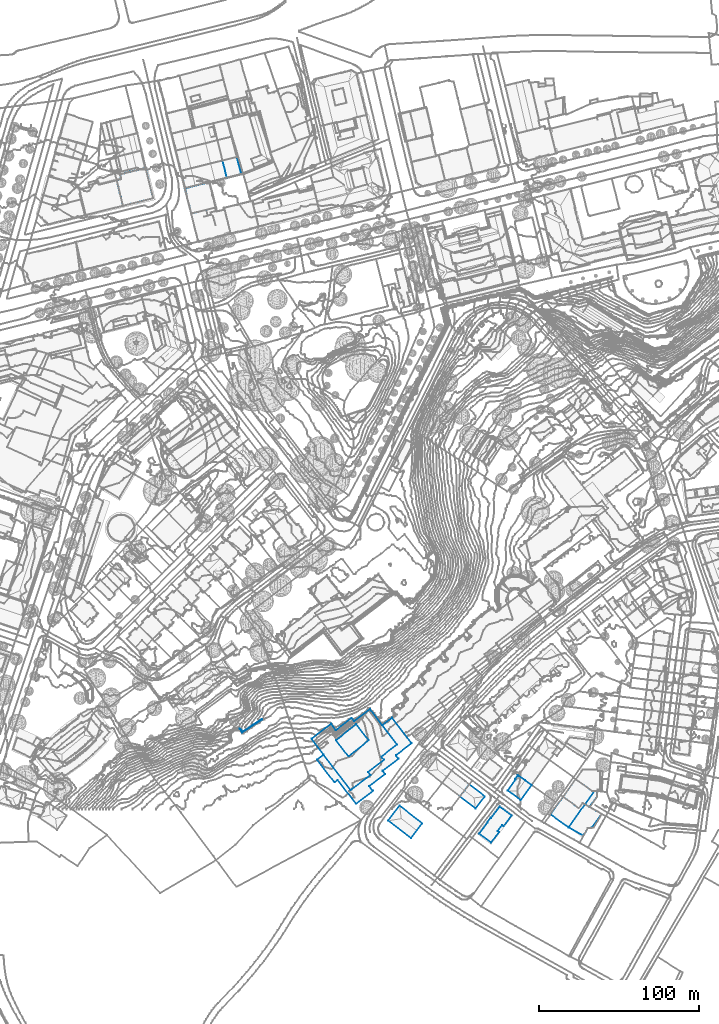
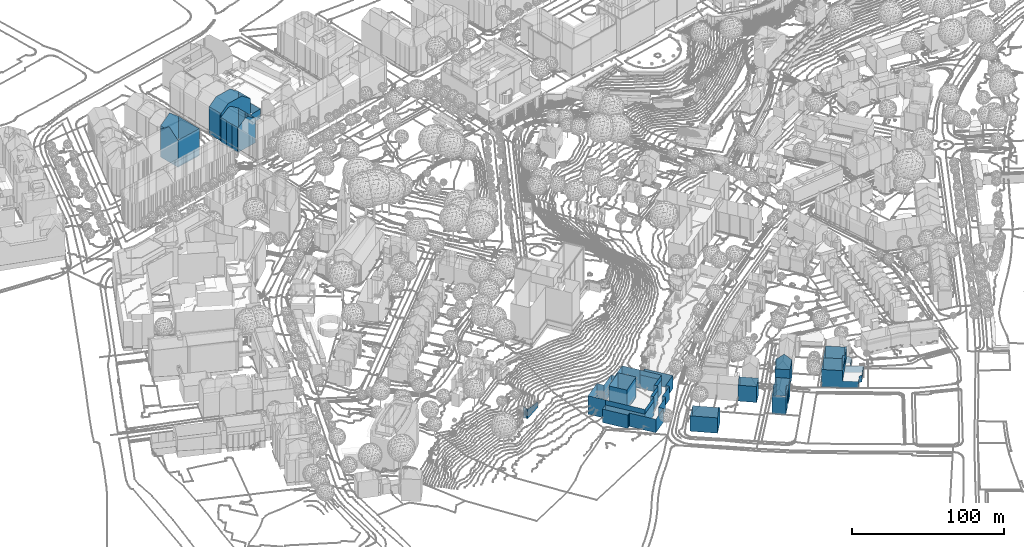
# Not in any storey, part 34 of 477: 14 walls.
"""IFC4 building model written with IfcOpenShell, lengths in metres."""

import ifcopenshell
import ifcopenshell.guid

model = None  # the IFC model being written
_history = None  # IfcOwnerHistory: only IFC2X3 demands one
_inside = {}  # id of a spatial element -> (the spatial element, [elements in it])
_under = {}  # id of a project, library or spatial element -> (it, [spatial elements below it])
_declared = {}  # id of a project -> (the project, [libraries it declares])
_typed = {}  # id of a type object -> (the type object, [elements of that type])
_made_of = {}  # id of a material, layer set ... -> (it, [elements and type objects made of it])


def new_model(schema):
    """Start an empty IFC model of exactly this schema.

    Asked for "IFC4X3", IfcOpenShell would pick the latest addendum, in which some entities
    have other attributes; the version numbers below select the first issue.
    IFC2X3 requires an IfcOwnerHistory on every rooted entity: one is made here for all.
    """
    global model, _history
    if schema == "IFC4X3":
        model = ifcopenshell.file(schema_version=(4, 3, 0, 0))
    else:
        model = ifcopenshell.file(schema=schema)
    _inside.clear()
    _under.clear()
    _declared.clear()
    _typed.clear()
    _made_of.clear()
    _history = None
    if model.schema == "IFC2X3":
        org = make("IfcOrganization", Name="unknown")
        user = make(
            "IfcPersonAndOrganization",
            ThePerson=make("IfcPerson", FamilyName="unknown"),
            TheOrganization=org,
        )
        app = make(
            "IfcApplication",
            ApplicationDeveloper=org,
            Version="unknown",
            ApplicationFullName="unknown",
            ApplicationIdentifier="unknown",
        )
        _history = make(
            "IfcOwnerHistory",
            OwningUser=user,
            OwningApplication=app,
            ChangeAction="ADDED",
            CreationDate=0,
        )
    return model


def make(cls, **values):
    """One entity of the class cls with the attributes given. An attribute that is None is left unset."""
    return model.create_entity(
        cls, **{name: value for name, value in values.items() if value is not None}
    )


def rooted(cls, **values):
    """An entity with a GlobalId (a new one), such as an element, a storey or a relation."""
    return make(cls, GlobalId=ifcopenshell.guid.new(), OwnerHistory=_history, **values)


def si_unit(unit_type, name, prefix=None):
    """IfcSIUnit, for example si_unit("LENGTHUNIT", "METRE", prefix="MILLI")."""
    return make("IfcSIUnit", UnitType=unit_type, Prefix=prefix, Name=name)


def assignment(units):
    """IfcUnitAssignment: the units of a project."""
    return None if units is None else make("IfcUnitAssignment", Units=units)


def point(xyz):
    """IfcCartesianPoint."""
    return None if xyz is None else make("IfcCartesianPoint", Coordinates=xyz)


def direction(xyz):
    """IfcDirection."""
    return None if xyz is None else make("IfcDirection", DirectionRatios=xyz)


def frame(location, z_axis=None, x_axis=None):
    """IfcAxis2Placement3D, a coordinate frame: its origin and axes. An axis left out is left unset."""
    return make(
        "IfcAxis2Placement3D",
        Location=point(location),
        Axis=direction(z_axis),
        RefDirection=direction(x_axis),
    )


def origin_with_axes():
    """The frame at (0, 0, 0) with the z axis (0, 0, 1) and the x axis (1, 0, 0) written out."""
    return frame((0.0, 0.0, 0.0), z_axis=(0.0, 0.0, 1.0), x_axis=(1.0, 0.0, 0.0))


def place(relative_to, where):
    """IfcLocalPlacement: puts the frame where relative to a parent placement (None: the world)."""
    return make(
        "IfcLocalPlacement", PlacementRelTo=relative_to, RelativePlacement=where
    )


def context(
    kind, dimensions, precision=None, world=None, true_north=None, identifier=None
):
    """IfcGeometricRepresentationContext, for example the 3D "Model" context."""
    return make(
        "IfcGeometricRepresentationContext",
        ContextIdentifier=identifier,
        ContextType=kind,
        CoordinateSpaceDimension=dimensions,
        Precision=precision,
        WorldCoordinateSystem=world,
        TrueNorth=true_north,
    )


def subcontext(parent, identifier, kind, view, scale=None):
    """IfcGeometricRepresentationSubContext, for example "Body" below "Model"."""
    return make(
        "IfcGeometricRepresentationSubContext",
        ContextIdentifier=identifier,
        ContextType=kind,
        ParentContext=parent,
        TargetScale=scale,
        TargetView=view,
    )


def project(units=None, contexts=None):
    """IfcProject with its units and contexts."""
    return rooted(
        "IfcProject",
        Name="project",
        RepresentationContexts=contexts,
        UnitsInContext=assignment(units),
    )


def spatial(cls, under=None, at=None, **own):
    """A site, building, storey or space (cls), placed at a placement, below another one or the project."""
    s = rooted(cls, ObjectPlacement=at, **own)
    if under is not None:
        _under.setdefault(under.id(), (under, []))[1].append(s)
    return s


def point_list(points):
    """IfcCartesianPointList2D or 3D."""
    cls = (
        "IfcCartesianPointList2D" if len(points[0]) == 2 else "IfcCartesianPointList3D"
    )
    return make(cls, CoordList=points)


def polygons(points, faces, closed=None, point_numbers=None):
    """IfcPolygonalFaceSet: a face is its outer loop, then its inner loops; points numbered from 1."""
    made = []
    for loops in faces:
        if len(loops) == 1:
            made.append(make("IfcIndexedPolygonalFace", CoordIndex=loops[0]))
        else:
            made.append(
                make(
                    "IfcIndexedPolygonalFaceWithVoids",
                    CoordIndex=loops[0],
                    InnerCoordIndices=loops[1:],
                )
            )
    return make(
        "IfcPolygonalFaceSet",
        Coordinates=point_list(points),
        Closed=closed,
        Faces=made,
        PnIndex=point_numbers,
    )


def shape(context_of_items, identifier, shape_type, items):
    """IfcShapeRepresentation: the items that make up one representation, for example the "Body"."""
    return make(
        "IfcShapeRepresentation",
        ContextOfItems=context_of_items,
        RepresentationIdentifier=identifier,
        RepresentationType=shape_type,
        Items=items,
    )


def made_of(thing, what):
    """Note that an element or type object is made of a material, layer set ...; save() writes the relation."""
    if what is not None:
        _made_of.setdefault(what.id(), (what, []))[1].append(thing)
    return thing


def element(
    cls,
    number,
    at=None,
    inside=None,
    cuts=None,
    type_object=None,
    material=None,
    context=None,
    identifier="Body",
    shape_type=None,
    held_by="IfcProductDefinitionShape",
    body=None,
    shapes=None,
    **own,
):
    """One element of the class cls, such as IfcWall. Its Tag is "e" and its number.

    at: its placement. inside: the storey or other place that contains it. cuts: it is an
    opening in that element (IfcRelVoidsElement). A single representation is given by context,
    identifier, shape_type and body (its items); several are given by shapes. held_by: the class
    of the entity that holds the representations. save() writes the other relations.
    """
    e = rooted(cls, Tag="e%d" % number, ObjectPlacement=at, **own)
    if body is not None:
        shapes = [shape(context, identifier, shape_type, body)]
    if shapes is not None:
        e.Representation = make(held_by, Representations=shapes)
    if inside is not None:
        _inside.setdefault(inside.id(), (inside, []))[1].append(e)
    if cuts is not None:
        rooted(
            "IfcRelVoidsElement", RelatingBuildingElement=cuts, RelatedOpeningElement=e
        )
    if type_object is not None:
        _typed.setdefault(type_object.id(), (type_object, []))[1].append(e)
    return made_of(e, material)


def aggregate(whole, parts):
    """IfcRelAggregates: a whole, such as a stair, and the parts it consists of."""
    return rooted("IfcRelAggregates", RelatingObject=whole, RelatedObjects=parts)


def save(model, path):
    """Write the relations noted so far, then the file.

    IfcRelAggregates (storeys below a building ...), IfcRelContainedInSpatialStructure (elements
    in a storey), IfcRelDefinesByType, IfcRelAssociatesMaterial and IfcRelDeclares: one each for
    every whole, place, type object, material and project.
    """
    for whole, parts in _under.values():
        aggregate(whole, parts)
    for where, things in _inside.values():
        rooted(
            "IfcRelContainedInSpatialStructure",
            RelatedElements=things,
            RelatingStructure=where,
        )
    for kind, things in _typed.values():
        rooted("IfcRelDefinesByType", RelatedObjects=things, RelatingType=kind)
    for what, things in _made_of.values():
        rooted("IfcRelAssociatesMaterial", RelatedObjects=things, RelatingMaterial=what)
    for by, libraries in _declared.values():
        rooted("IfcRelDeclares", RelatingContext=by, RelatedDefinitions=libraries)
    model.write(path)


model = new_model("IFC4")

# Units and contexts
model_context = context("Model", 3, precision=1e-05, world=origin_with_axes())
body_context = subcontext(model_context, "Body", "Model", "MODEL_VIEW")
ifc_project = project(units=[si_unit("AREAUNIT", "SQUARE_METRE"), si_unit("LENGTHUNIT", "METRE")], contexts=[model_context])

# Sites, building
site_1_placement = place(None, origin_with_axes())
site_1 = spatial("IfcSite", under=ifc_project, at=site_1_placement, Name="Topoexport Site")
site_2_placement = place(site_1_placement, origin_with_axes())
site_2 = spatial("IfcSite", under=site_1, at=site_2_placement, Name="TPX_BUILDINGS")
building_1_placement = place(site_2_placement, frame((351.9437320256, 10.5164160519, 499.6315), z_axis=(0.0, 0.0, 1.0), x_axis=(1.0, 0.0, 0.0)))
building_1 = spatial("IfcBuilding", under=site_2, at=building_1_placement, Name="Building 4", CompositionType="ELEMENT")

# Wall
wall_1_placement = place(None, frame((351.9437320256, 10.5164160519, 499.6315), z_axis=(0.0, 0.0, 1.0), x_axis=(1.0, 0.0, 0.0)))
element("IfcWall", 1, at=wall_1_placement, inside=building_1, Name="Wall 0", context=body_context, shape_type="Tessellation", body=[
    polygons([(6.9640000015, 9.188500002, 0.0), (10.7760000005, 6.4600000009, 0.0), (6.9640000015, 9.188500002, 14.2176), (0.0, 0.0, 0.0), (5.0899999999, 7.0692999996, 13.9787), (0.0, 0.0, 13.9787), (4.9010000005, 7.5439999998, 0.0), (4.7410000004, 7.3213, 13.9787), (4.7410000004, 7.3213, 0.0), (5.0899999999, 7.0692999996, 0.0), (6.444000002, 9.5606000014, 0.0), (6.444000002, 9.5606000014, 14.2186), (6.3780000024, 9.6064999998, 0.0), (4.9010000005, 7.5439999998, 14.1566), (6.3780000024, 9.6064999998, 14.1506), (14.9299999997, 3.4853999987, 0.0), (8.1790000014, -5.8896000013, 13.9786), (14.9299999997, 3.4853999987, 13.9786), (10.7760000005, 6.4600000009, 18.1722), (8.1790000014, -5.8896000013, 0.0)], [[[3, 2, 1]], [[6, 5, 4]], [[9, 8, 7]], [[5, 9, 10]], [[9, 5, 8]], [[12, 3, 11]], [[14, 13, 7]], [[13, 15, 12]], [[11, 13, 12]], [[18, 17, 16]], [[19, 18, 2]], [[17, 6, 20]], [[19, 2, 3]], [[5, 10, 4]], [[14, 7, 8]], [[3, 1, 11]], [[14, 15, 13]], [[17, 20, 16]], [[18, 16, 2]], [[6, 4, 20]]]),
])

# Building
building_2_placement = place(site_2_placement, frame((277.0167320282, -8.246283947, 501.3544), z_axis=(0.0, 0.0, 1.0), x_axis=(1.0, 0.0, 0.0)))
building_2 = spatial("IfcBuilding", under=site_2, at=building_2_placement, Name="Building 11", CompositionType="ELEMENT")

# Wall
wall_2_placement = place(None, frame((277.0167320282, -8.246283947, 501.3544), z_axis=(0.0, 0.0, 1.0), x_axis=(1.0, 0.0, 0.0)))
element("IfcWall", 2, at=wall_2_placement, inside=building_2, Name="Wall 0", context=body_context, shape_type="Tessellation", body=[
    polygons([(0.0, 0.0, 0.0), (7.1789999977, 9.2978999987, 12.3158), (0.0, 0.0, 12.3158), (7.1789999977, 9.2978999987, 0.0), (21.432, -1.7080000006, 12.3158), (14.3549999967, -11.0839999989, 0.0), (14.3549999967, -11.0839999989, 12.3158), (21.432, -1.7080000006, 0.0), (18.0519999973, -6.1854999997, 16.7393)], [[[3, 2, 1]], [[2, 5, 4]], [[7, 3, 6]], [[8, 5, 7]], [[8, 7, 6]], [[7, 5, 9]], [[2, 4, 1]], [[5, 8, 4]], [[3, 1, 6]]]),
])

# Building
building_3_placement = place(site_2_placement, frame((334.0767320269, -16.4571839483, 500.2114), z_axis=(0.0, 0.0, 1.0), x_axis=(1.0, 0.0, 0.0)))
building_3 = spatial("IfcBuilding", under=site_2, at=building_3_placement, Name="Building 12", CompositionType="ELEMENT")

# Wall
wall_3_placement = place(None, frame((334.0767320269, -16.4571839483, 500.2114), z_axis=(0.0, 0.0, 1.0), x_axis=(1.0, 0.0, 0.0)))
element("IfcWall", 3, at=wall_3_placement, inside=building_3, Name="Wall 0", context=body_context, shape_type="Tessellation", body=[
    polygons([(7.5119999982, 9.8857000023, 14.4916), (7.8929999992, 9.5967000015, 14.8056), (7.5119999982, 9.8857000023, 14.8056), (5.0780000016, 6.682599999, 14.4896), (5.0780000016, 6.682599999, 14.8056), (5.4620000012, 6.3916000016, 14.8056), (20.2369999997, 11.2978000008, 8.8552), (15.2030000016, 4.6728000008, 0.0), (20.2369999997, 11.2978000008, 14.1707), (20.2369999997, 11.2978000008, 0.0), (15.2030000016, 4.6728000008, 14.1747), (8.6519999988, -3.9492000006, 14.1796), (12.4439999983, 1.0428999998, 14.1766), (12.4439999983, 1.0428999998, 0.0), (7.3869999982, -5.6142999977, 8.8632), (7.3869999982, -5.6142999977, 3.5447), (7.3869999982, -5.6142999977, 0.0), (11.4890000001, 1.7675999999, 14.9356), (11.4890000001, 1.7675999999, 0.0), (14.2479999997, 5.3993999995, 0.0), (14.2479999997, 5.3993999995, 14.9336), (7.4239999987, 9.7705000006, 0.0), (7.1849999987, 9.9530999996, 14.9236), (7.1849999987, 9.9530999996, 0.0), (7.4239999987, 9.7705000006, 14.9246), (5.175999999, 7.307599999, 15.1846), (5.175999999, 7.307599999, 0.0), (6.1669999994, 8.6123000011, 16.2965), (19.8940000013, 11.557599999, 14.4426), (12.8440000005, 16.9043000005, 14.4436), (12.8440000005, 16.9043000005, 0.0), (0.0, 0.0, 0.0), (7.1919999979, -5.4657999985, 14.3356), (7.3869999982, -5.6142999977, 14.1806), (0.0, 0.0, 14.3406), (5.4149999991, 7.1259000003, 0.0), (0.1359999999, 0.1787, 14.4856), (5.4149999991, 7.126000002, 15.1836), (12.7949999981, 16.8388000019, 14.4966), (12.7949999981, 16.8388000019, 0.0)], [[[3, 2, 1]], [[6, 5, 4]], [[9, 8, 7]], [[7, 8, 10]], [[9, 11, 8]], [[14, 13, 12]], [[16, 12, 15]], [[17, 14, 16]], [[16, 14, 12]], [[18, 13, 14]], [[19, 18, 14]], [[18, 19, 20]], [[18, 20, 21]], [[8, 21, 20]], [[24, 23, 22]], [[25, 22, 23]], [[24, 27, 26]], [[26, 28, 23]], [[26, 23, 24]], [[7, 30, 29]], [[7, 31, 30]], [[29, 9, 7]], [[7, 10, 31]], [[17, 16, 32]], [[16, 15, 32]], [[34, 33, 15]], [[35, 32, 15]], [[35, 15, 33]], [[36, 32, 35]], [[35, 37, 36]], [[4, 5, 38]], [[38, 36, 4]], [[37, 4, 36]], [[38, 26, 27]], [[27, 36, 38]], [[3, 1, 25]], [[39, 30, 1]], [[25, 1, 22]], [[31, 40, 1]], [[22, 1, 40]], [[1, 30, 31]], [[34, 15, 12]], [[11, 21, 8]]]),
])

# Building
building_4_placement = place(site_2_placement, frame((211.8297320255, 101.9383160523, 526.7541), z_axis=(0.0, 0.0, 1.0), x_axis=(1.0, 0.0, 0.0)))
building_4 = spatial("IfcBuilding", under=site_2, at=building_4_placement, Name="Building 18", CompositionType="ELEMENT")

# Walls
wall_4_placement = place(None, frame((211.8297320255, 101.9383160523, 526.7541), z_axis=(0.0, 0.0, 1.0), x_axis=(1.0, 0.0, 0.0)))
element("IfcWall", 4, at=wall_4_placement, inside=building_4, Name="Wall 3", context=body_context, shape_type="Tessellation", body=[
    polygons([(-26.0409999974, -54.9580000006, -17.0634), (-13.8379999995, -46.5898999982, -12.6568), (-26.0409999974, -54.9580000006, -9.6341), (-13.6510000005, -46.8759999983, -12.6568), (-13.6510000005, -46.8759999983, -17.0634), (-13.8379999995, -46.5898999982, -17.0634)], [[[3, 2, 1]], [[5, 4, 3]], [[3, 1, 5]], [[2, 4, 6]], [[2, 6, 1]], [[4, 5, 6]]]),
])
wall_5_placement = place(None, frame((211.8297320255, 101.9383160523, 526.7541), z_axis=(0.0, 0.0, 1.0), x_axis=(1.0, 0.0, 0.0)))
element("IfcWall", 5, at=wall_5_placement, inside=building_4, Name="Wall 4", context=body_context, shape_type="Tessellation", body=[
    polygons([(-26.0409999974, -54.9580000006, -9.6341), (-13.8379999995, -46.5898999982, -12.6568), (-13.8379999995, -46.5898999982, -17.0634), (-26.0409999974, -54.9580000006, -17.0634), (-25.9169999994, -54.4677999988, -17.0634), (-25.9169999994, -54.4677999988, -9.6341), (-26.367999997, -53.6319000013, -17.0634), (-26.367999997, -53.6319000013, -9.2021), (-26.6359999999, -53.8544999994, -17.0634), (-27.7089999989, -52.5527999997, -17.0633), (-26.6359999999, -53.8544999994, -9.2021), (-27.7089999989, -52.5527999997, -8.0502)], [[[3, 2, 1]], [[1, 4, 3]], [[6, 2, 5]], [[8, 6, 7]], [[1, 9, 4]], [[11, 10, 9]], [[12, 8, 10]], [[2, 3, 5]], [[6, 5, 7]], [[11, 9, 1]], [[12, 10, 11]], [[8, 7, 10]]]),
])

# Building
building_5_placement = place(site_2_placement, frame((386.5667320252, 6.5633160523, 499.0235), z_axis=(0.0, 0.0, 1.0), x_axis=(1.0, 0.0, 0.0)))
building_5 = spatial("IfcBuilding", under=site_2, at=building_5_placement, Name="Building 20", CompositionType="ELEMENT")

# Wall
wall_6_placement = place(None, frame((386.5667320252, 6.5633160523, 499.0235), z_axis=(0.0, 0.0, 1.0), x_axis=(1.0, 0.0, 0.0)))
element("IfcWall", 6, at=wall_6_placement, inside=building_5, Name="Wall 0", context=body_context, shape_type="Tessellation", body=[
    polygons([(16.8920000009, -6.3027999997, 0.0), (16.7939999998, -6.4395000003, 5.3905), (16.8920000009, -6.3027999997, 5.3905), (16.6450000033, -6.1513999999, 0.0), (16.6450000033, -6.1513999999, 5.3905), (21.2810000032, 0.3359000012, 0.0), (21.2810000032, 0.3359000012, 5.3905), (21.393000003, 3.6981999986, 0.0), (21.393000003, 3.6981999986, 5.3905), (15.012000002, 5.9472000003, 0.0), (7.8980000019, 11.0351000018, 13.8347), (7.8980000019, 11.0351000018, 0.0), (18.1740000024, 3.6854999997, 0.0), (18.1740000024, 3.6854999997, 13.8347), (0.0, 0.0, 0.0), (0.0, 0.0, 13.8347), (9.9030000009, -7.0859999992, 13.8347), (9.9030000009, -7.0859999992, 5.3905), (7.1210000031, -5.0947000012, 0.0), (9.9030000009, -7.0859999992, 0.0), (12.2230000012, -3.8456999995, 0.0), (12.2230000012, -3.8456999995, 13.8347), (19.6400000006, 3.691399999, 5.3905), (13.6840000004, -4.6748000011, 13.8347), (19.6400000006, 3.6933000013, 13.8347), (16.7939999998, -6.4395000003, 0.0), (13.6840000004, -4.6748000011, 5.3905)], [[[3, 2, 1]], [[5, 3, 4]], [[7, 5, 6]], [[9, 7, 8]], [[12, 11, 10]], [[10, 14, 13]], [[16, 11, 15]], [[18, 17, 16]], [[20, 18, 19]], [[19, 16, 15]], [[16, 19, 18]], [[22, 18, 21]], [[18, 20, 21]], [[25, 24, 23]], [[13, 23, 8]], [[14, 23, 13]], [[9, 8, 23]], [[26, 2, 21]], [[27, 22, 21]], [[22, 27, 24]], [[27, 21, 2]], [[2, 26, 1]], [[3, 1, 4]], [[5, 4, 6]], [[7, 6, 8]], [[11, 14, 10]], [[11, 12, 15]], [[17, 18, 22]], [[24, 27, 23]], [[25, 23, 14]]]),
])

# Building
building_6_placement = place(site_2_placement, frame((378.6967320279, -4.4298839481, 499.0235), z_axis=(0.0, 0.0, 1.0), x_axis=(1.0, 0.0, 0.0)))
building_6 = spatial("IfcBuilding", under=site_2, at=building_6_placement, Name="Building 21", CompositionType="ELEMENT")

# Wall
wall_7_placement = place(None, frame((378.6967320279, -4.4298839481, 499.0235), z_axis=(0.0, 0.0, 1.0), x_axis=(1.0, 0.0, 0.0)))
element("IfcWall", 7, at=wall_7_placement, inside=building_6, Name="Wall 0", context=body_context, shape_type="Tessellation", body=[
    polygons([(17.7729999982, 3.9072000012, 0.0), (20.0929999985, 7.1475000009, 5.3905), (17.7729999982, 3.9072000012, 13.8347), (0.0, 0.0, 0.0), (7.8699999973, 10.9932000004, 13.8347), (0.0, 0.0, 13.8347), (21.5539999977, 6.3183999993, 5.3905), (11.3049999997, -8.0790999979, 13.8347), (21.5539999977, 6.3183999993, 13.8347), (20.3409999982, -13.2430999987, 0.0), (11.6140000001, -8.3007999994, 5.3905), (20.3409999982, -13.2430999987, 5.3904), (22.2249999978, -10.6083999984, 0.0), (22.2249999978, -10.6083999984, 5.3904), (23.425999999, -8.5088, 0.0), (23.425999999, -8.5088, 5.3905), (24.1999999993, -8.4648000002, 0.0), (24.1999999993, -8.4648000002, 5.3905), (25.7539999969, -8.3183000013, 0.0), (25.7539999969, -8.3183000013, 5.3904), (31.9169999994, 0.3066999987, 0.0), (31.9169999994, 0.3066999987, 5.3905), (29.0299999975, 2.0751999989, 0.0), (29.0299999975, 2.0751999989, 5.3905), (7.8699999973, 10.9932000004, 0.0), (21.5539999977, 6.3183999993, 0.0), (20.0929999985, 7.1475000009, 0.0), (11.3049999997, -8.0790999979, 0.0), (11.3049999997, -8.0790999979, 5.3905), (11.6140000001, -8.3007999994, 0.0), (7.1319999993, -5.0986000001, 0.0), (20.0929999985, 7.1475000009, 13.8347)], [[[3, 2, 1]], [[6, 5, 4]], [[9, 8, 7]], [[12, 11, 10]], [[14, 12, 13]], [[16, 14, 15]], [[18, 16, 17]], [[20, 18, 19]], [[22, 20, 21]], [[24, 22, 23]], [[5, 1, 25]], [[1, 5, 3]], [[2, 9, 7]], [[27, 2, 26]], [[24, 23, 7]], [[30, 29, 28]], [[8, 31, 29]], [[29, 31, 28]], [[6, 31, 8]], [[32, 2, 3]], [[2, 27, 1]], [[5, 25, 4]], [[8, 29, 7]], [[11, 30, 10]], [[12, 10, 13]], [[14, 13, 15]], [[16, 15, 17]], [[18, 17, 19]], [[20, 19, 21]], [[22, 21, 23]], [[32, 9, 2]], [[2, 7, 26]], [[23, 26, 7]], [[11, 29, 30]], [[4, 31, 6]]]),
])

# Building
building_7_placement = place(site_2_placement, frame((322.0067320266, 6.8035160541, 500.5714), z_axis=(0.0, 0.0, 1.0), x_axis=(1.0, 0.0, 0.0)))
building_7 = spatial("IfcBuilding", under=site_2, at=building_7_placement, Name="Building 26", CompositionType="ELEMENT")

# Wall
wall_8_placement = place(None, frame((322.0067320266, 6.8035160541, 500.5714), z_axis=(0.0, 0.0, 1.0), x_axis=(1.0, 0.0, 0.0)))
element("IfcWall", 8, at=wall_8_placement, inside=building_7, Name="Wall 0", context=body_context, shape_type="Tessellation", body=[
    polygons([(5.8610000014, 7.6503999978, 0.0), (15.6110000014, 0.1103999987, 12.7678), (5.8610000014, 7.6503999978, 12.7678), (15.6110000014, 0.1103999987, 0.0), (9.7160000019, -7.5137000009, 12.7678), (9.7160000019, -7.5137000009, 0.0), (0.0, 0.0, 12.7678), (2.9200000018, 3.811499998, 17.5223), (0.0, 0.0, 0.0), (2.9200000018, 3.811499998, 0.0)], [[[3, 2, 1]], [[2, 5, 4]], [[5, 7, 6]], [[7, 8, 3]], [[7, 3, 9]], [[10, 9, 3]], [[1, 10, 3]], [[2, 4, 1]], [[5, 6, 4]], [[7, 9, 6]]]),
])

# Building
building_8_placement = place(site_2_placement, frame((287.111732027, 46.2742160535, 500.3625), z_axis=(0.0, 0.0, 1.0), x_axis=(1.0, 0.0, 0.0)))
building_8 = spatial("IfcBuilding", under=site_2, at=building_8_placement, Name="Building 65", CompositionType="ELEMENT")

# Walls
wall_9_placement = place(None, frame((287.111732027, 46.2742160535, 500.3625), z_axis=(0.0, 0.0, 1.0), x_axis=(1.0, 0.0, 0.0)))
element("IfcWall", 9, at=wall_9_placement, inside=building_8, Name="Wall 1", context=body_context, shape_type="Tessellation", body=[
    polygons([(-42.6979999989, 2.1601999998, 0.2711), (-32.8040000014, 9.7626999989, 14.9756), (-42.6979999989, 2.1601999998, 14.9756), (-42.7219999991, 2.1405999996, 0.2711), (-42.7219999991, 2.1405999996, 14.9756), (-45.7670000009, 6.1103999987, 0.2711), (-45.7670000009, 6.1103999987, 14.9757), (-57.9750000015, -3.2422000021, 0.2711), (-57.9750000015, -3.2422000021, 14.9757), (-50.3640000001, -13.1611000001, 0.271), (-50.3640000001, -13.1611000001, 14.9756), (-50.4539999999, -13.2303999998, 0.271), (-50.4539999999, -13.2303999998, 14.9756), (-33.4110000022, -35.375, 0.271), (-33.4110000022, -35.375, 14.9756), (-21.1009999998, -25.9004000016, 0.271), (-21.1009999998, -25.9004000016, 14.9756), (-22.550999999, -24.0175999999, 0.271), (-22.550999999, -24.0175999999, 14.9756), (-12.6649999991, -16.4072000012, 0.271), (-12.6649999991, -16.4072000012, 14.9756), (-14.2050000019, -14.4053000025, 0.271), (-14.2050000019, -14.4053000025, 14.9756), (-4.3040000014, -6.7851000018, 0.271), (-4.3040000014, -6.7851000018, 14.9756), (-13.6860000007, 5.4052999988, 0.271), (-13.6860000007, 5.4052999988, 14.9756), (-13.7170000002, 5.3818999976, 0.271), (-13.7170000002, 5.3818999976, 14.9756), (-21.3920000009, 15.3955000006, 0.2711), (-21.3920000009, 15.3955000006, 14.9756), (-31.2890000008, 7.7841999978, 0.2711), (-31.2890000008, 7.7841999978, 14.9756), (-32.8040000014, 9.7626999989, 0.2711)], [[[3, 2, 1]], [[5, 3, 4]], [[7, 5, 6]], [[9, 7, 8]], [[11, 9, 10]], [[13, 11, 12]], [[15, 13, 14]], [[17, 15, 16]], [[19, 17, 18]], [[21, 19, 20]], [[23, 21, 22]], [[25, 23, 24]], [[27, 25, 26]], [[29, 27, 28]], [[31, 29, 30]], [[33, 31, 32]], [[2, 33, 34]], [[2, 34, 1]], [[3, 1, 4]], [[5, 4, 6]], [[7, 6, 8]], [[9, 8, 10]], [[11, 10, 12]], [[13, 12, 14]], [[15, 14, 16]], [[17, 16, 18]], [[19, 18, 20]], [[21, 20, 22]], [[23, 22, 24]], [[25, 24, 26]], [[27, 26, 28]], [[29, 28, 30]], [[31, 30, 32]], [[33, 32, 34]]]),
])
wall_10_placement = place(None, frame((287.111732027, 46.2742160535, 500.3625), z_axis=(0.0, 0.0, 1.0), x_axis=(1.0, 0.0, 0.0)))
element("IfcWall", 10, at=wall_10_placement, inside=building_8, Name="Wall 2", context=body_context, shape_type="Tessellation", body=[
    polygons([(-34.8139999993, -14.2206999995, 1.8109), (-42.6830000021, -4.2099000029, 18.1513), (-34.8139999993, -14.2206999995, 18.1513), (-22.0850000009, -4.2148000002, 1.8109), (-22.0850000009, -4.2148000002, 18.1513), (-29.9539999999, 5.7969000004, 1.8109), (-29.9539999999, 5.7969000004, 18.1513), (-42.6830000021, -4.2099000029, 1.8109)], [[[3, 2, 1]], [[5, 3, 4]], [[7, 5, 6]], [[2, 7, 8]], [[2, 8, 1]], [[3, 1, 4]], [[5, 4, 6]], [[7, 6, 8]]]),
])
wall_11_placement = place(None, frame((287.111732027, 46.2742160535, 500.3625), z_axis=(0.0, 0.0, 1.0), x_axis=(1.0, 0.0, 0.0)))
element("IfcWall", 11, at=wall_11_placement, inside=building_8, Name="Wall 3", context=body_context, shape_type="Tessellation", body=[
    polygons([(-11.8669999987, -25.3359000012, 0.271), (-21.7740000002, -32.9541000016, 11.038), (-11.8669999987, -25.3359000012, 11.038), (-13.3530000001, -23.3993999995, 0.271), (-13.3530000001, -23.3993999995, 11.038), (-13.3770000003, -23.3603000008, 0.271), (-13.3770000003, -23.3603000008, 11.038), (-3.4820000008, -15.7529000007, 0.271), (-3.4820000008, -15.7529000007, 11.038), (-5.0069999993, -13.7685000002, 0.271), (-5.0069999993, -13.7685000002, 11.038), (-4.9169999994, -13.6992000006, 0.271), (-4.9169999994, -13.6992000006, 11.038), (-5.0399999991, -13.5381000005, 0.271), (-5.0399999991, -13.5381000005, 11.038), (4.6689999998, -6.067400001, 0.271), (4.6689999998, -6.067400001, 11.038), (-7.5949999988, 9.8671999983, 0.271), (-7.5949999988, 9.8671999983, 11.038), (-13.5780000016, 5.2626999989, 0.271), (-13.5780000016, 5.2626999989, 11.038), (-4.3040000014, -6.7851000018, 0.271), (-4.3040000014, -6.7851000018, 11.038), (-14.2050000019, -14.4053000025, 0.271), (-14.2050000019, -14.4053000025, 11.038), (-12.6649999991, -16.4072000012, 0.271), (-12.6649999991, -16.4072000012, 11.038), (-22.550999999, -24.0175999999, 0.271), (-22.550999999, -24.0175999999, 11.038), (-21.1009999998, -25.9004000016, 0.271), (-21.1009999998, -25.9004000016, 11.038), (-33.4110000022, -35.375, 0.271), (-33.4110000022, -35.375, 11.038), (-50.4539999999, -13.2303999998, 0.271), (-50.4539999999, -13.2303999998, 11.038), (-54.4660000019, -16.3104999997, 0.271), (-54.4660000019, -16.3104999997, 11.038), (-43.5249999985, -30.5293000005, 0.271), (-43.5249999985, -30.5293000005, 11.038), (-41.5800000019, -29.0331999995, 0.271), (-41.5800000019, -29.0331999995, 11.038), (-41.5170000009, -29.1152000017, 0.271), (-41.5170000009, -29.1152000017, 11.038), (-41.4739999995, -29.0820000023, 0.271), (-41.4739999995, -29.0820000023, 11.038), (-30.0280000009, -43.9521000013, 0.271), (-30.0280000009, -43.9521000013, 11.038), (-19.5309999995, -35.8729999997, 0.271), (-19.5309999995, -35.8729999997, 11.038), (-21.7740000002, -32.9541000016, 0.271)], [[[3, 2, 1]], [[5, 3, 4]], [[7, 5, 6]], [[9, 7, 8]], [[11, 9, 10]], [[13, 11, 12]], [[15, 13, 14]], [[17, 15, 16]], [[19, 17, 18]], [[21, 19, 20]], [[23, 21, 22]], [[25, 23, 24]], [[27, 25, 26]], [[29, 27, 28]], [[31, 29, 30]], [[33, 31, 32]], [[35, 33, 34]], [[37, 35, 36]], [[39, 37, 38]], [[41, 39, 40]], [[43, 41, 42]], [[45, 43, 44]], [[47, 45, 46]], [[49, 47, 48]], [[2, 49, 50]], [[2, 50, 1]], [[3, 1, 4]], [[5, 4, 6]], [[7, 6, 8]], [[9, 8, 10]], [[11, 10, 12]], [[13, 12, 14]], [[15, 14, 16]], [[17, 16, 18]], [[19, 18, 20]], [[21, 20, 22]], [[23, 22, 24]], [[25, 24, 26]], [[27, 26, 28]], [[29, 28, 30]], [[31, 30, 32]], [[33, 32, 34]], [[35, 34, 36]], [[37, 36, 38]], [[39, 38, 40]], [[41, 40, 42]], [[43, 42, 44]], [[45, 44, 46]], [[47, 46, 48]], [[49, 48, 50]]]),
])

# Building
building_9_placement = place(site_2_placement, frame((107.2487320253, 392.5857160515, 537.2697), z_axis=(0.0, 0.0, 1.0), x_axis=(1.0, 0.0, 0.0)))
building_9 = spatial("IfcBuilding", under=site_2, at=building_9_placement, Name="Building 220", CompositionType="ELEMENT")

# Wall
wall_12_placement = place(None, frame((107.2487320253, 392.5857160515, 537.2697), z_axis=(0.0, 0.0, 1.0), x_axis=(1.0, 0.0, 0.0)))
element("IfcWall", 12, at=wall_12_placement, inside=building_9, Name="Wall 0", context=body_context, shape_type="Tessellation", body=[
    polygons([(11.9920000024, 6.2002000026, 26.7535), (10.370000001, 5.7959000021, 28.1223), (10.6440000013, 5.8643000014, 10.1261), (11.9570000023, 6.1914000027, 0.0), (9.9900000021, 5.7012000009, 0.0), (13.4020000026, 6.5507999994, 5.5255), (14.7710000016, 6.8916000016, 0.0), (17.5320000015, 7.5800999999, 0.0), (17.501000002, 7.572300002, 22.1109), (18.126000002, 7.7276000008, 0.0), (18.126000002, 7.7276000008, 21.582), (17.7050000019, 7.6231000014, 21.9379), (18.3320000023, 6.9013999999, 21.583), (18.3670000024, 6.7569000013, 0.0), (20.0, 0.1817000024, 21.5939), (19.518000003, 2.125, 0.0), (22.8420000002, -11.2626999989, -0.0001), (2.5960000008, -10.5106999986, -0.0001), (1.9100000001, -7.7333999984, -0.0001), (2.5960000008, -10.5106999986, 26.1494), (10.0230000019, -14.4305999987, 21.6858), (22.8010000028, -11.2733999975, 21.6488), (8.8470000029, -14.7206999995, -0.0001), (3.9360000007, -15.9344999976, 21.7038), (3.9360000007, -15.9344999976, -0.0001), (1.5100000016, -6.1141999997, 27.1193), (1.9100000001, -7.7333999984, 28.4232), (1.5100000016, -6.1141999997, -0.0001), (1.1900000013, -4.8172999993, 26.0694), (1.1900000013, -4.8172999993, -0.0001), (1.0460000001, -4.2353000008, 25.6055), (2.620000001, 0.7666000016, 22.1099), (2.7360000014, 0.7959000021, 0.0), (2.7230000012, 0.7930000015, 22.1099), (2.6201000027, 0.7666999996, 0.0), (2.6449999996, 0.6669999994, 22.1899), (2.6451000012, 0.6669999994, 0.0), (1.0810000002, 0.2734999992, 22.1919), (0.0, 0.0, 22.1939), (0.0, 0.0, 0.0), (1.0460000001, -4.2353000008, -0.0001), (4.5420000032, 4.3428000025, 0.0), (4.4160000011, 4.3115999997, 23.9827), (2.1040000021, 3.7364000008, 22.1489), (6.0980000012, 4.7314999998, 25.3166), (2.1040000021, 3.7364000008, 0.0), (6.120000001, 4.7364000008, 8.8372), (7.4600000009, 5.0703999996, 0.0), (2.8280000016, 0.8183999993, 0.0), (2.8280000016, 0.8183999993, 22.1439), (2.7860000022, 0.8077000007, 22.1109), (8.3500000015, 5.2919999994, 27.1034), (7.4590000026, 5.0703999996, 26.3955), (8.4170000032, 5.308600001, 10.28), (13.3550000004, 6.5391000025, 25.6046), (22.8417000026, -11.2626999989, 21.6138), (10.0130000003, 5.7071000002, 28.4233)], [[[3, 2, 1]], [[3, 1, 4]], [[3, 4, 5]], [[7, 4, 6]], [[7, 9, 8]], [[12, 11, 10]], [[10, 11, 13]], [[13, 14, 10]], [[14, 13, 15]], [[16, 14, 15]], [[17, 16, 15]], [[20, 19, 18]], [[17, 22, 21]], [[23, 17, 21]], [[25, 23, 24]], [[18, 24, 20]], [[18, 25, 24]], [[27, 26, 19]], [[26, 29, 28]], [[29, 31, 30]], [[34, 33, 32]], [[35, 32, 33]], [[37, 36, 32]], [[32, 35, 37]], [[40, 39, 38]], [[36, 37, 38]], [[38, 37, 40]], [[31, 39, 41]], [[39, 40, 41]], [[44, 43, 42]], [[43, 45, 42]], [[44, 42, 46]], [[45, 48, 47]], [[42, 47, 48]], [[50, 46, 49]], [[50, 44, 46]], [[50, 33, 51]], [[50, 49, 33]], [[48, 53, 52]], [[52, 54, 48]], [[54, 52, 5]], [[54, 5, 48]], [[5, 2, 3]], [[55, 4, 1]], [[55, 7, 6]], [[9, 7, 55]], [[55, 6, 4]], [[8, 9, 12]], [[12, 10, 8]], [[22, 17, 56]], [[56, 17, 15]], [[27, 19, 20]], [[23, 21, 24]], [[26, 28, 19]], [[29, 30, 28]], [[31, 41, 30]], [[51, 33, 34]], [[42, 45, 47]], [[53, 48, 45]], [[57, 2, 52]], [[2, 5, 52]]]),
])

# Building
building_10_placement = place(site_2_placement, frame((149.980732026, 387.552516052, 537.2746), z_axis=(0.0, 0.0, 1.0), x_axis=(1.0, 0.0, 0.0)))
building_10 = spatial("IfcBuilding", under=site_2, at=building_10_placement, Name="Building 226", CompositionType="ELEMENT")

# Wall
wall_13_placement = place(None, frame((149.980732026, 387.552516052, 537.2746), z_axis=(0.0, 0.0, 1.0), x_axis=(1.0, 0.0, 0.0)))
element("IfcWall", 13, at=wall_13_placement, inside=building_10, Name="Wall 0", context=body_context, shape_type="Tessellation", body=[
    polygons([(12.7809999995, -13.6191000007, -0.0001), (10.438000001, -14.191399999, 24.4136), (12.7809999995, -13.6191000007, 24.4136), (6.3269999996, 1.6015999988, 0.0), (8.6750000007, 2.2109999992, 24.4136), (6.3269999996, 1.6015999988, 24.4136), (0.0, 0.0, 19.8621), (0.0490000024, -0.1992000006, 19.8601), (0.0, 0.0, 0.0), (0.0490000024, -0.1992000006, 0.0), (0.0980000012, -0.186499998, 19.8951), (0.0980000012, -0.186499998, 0.0), (0.4149999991, -1.4618999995, 12.4248), (0.444000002, -1.5780999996, 4.9625), (0.2420000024, -0.7655999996, 8.6991), (0.5529999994, -2.0174999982, 19.8801), (0.5590000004, -2.0419000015, 0.0), (0.3100000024, -1.0390000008, 19.8881), (0.9680000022, -3.6854999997, 4.9605), (1.0379999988, -3.9677000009, 19.8691), (1.376000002, -5.3310000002, 19.8601), (1.376000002, -5.3310000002, 0.0), (1.2210000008, -5.3691000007, 0.0), (1.2210000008, -5.3691000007, 19.7501), (2.4120000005, -10.2274999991, -0.0001), (1.8170000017, -7.7978000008, -0.0001), (2.4120000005, -10.2274999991, 19.7091), (2.568, -10.1893999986, 19.82), (2.568, -10.1893999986, -0.0001), (2.8139999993, -11.1933000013, -0.0001), (2.811999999, -11.182599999, 19.812), (2.8540000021, -11.3544999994, 19.81), (2.9120000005, -11.5907999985, -0.0001), (2.9100000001, -11.5810000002, 19.807), (10.438000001, -14.191399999, -0.0001), (7.438000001, -14.9228000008, 22.2658), (3.1440000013, -12.5361000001, 11.1319), (3.5450000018, -14.1708999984, 11.7328), (3.4019999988, -13.5859000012, -0.0001), (3.262000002, -13.0165999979, 19.792), (3.8320000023, -15.3387999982, 19.766), (3.8320000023, -15.3387999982, -0.0001), (3.754999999, -15.3574000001, 19.7111), (3.8610000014, -15.7949000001, -0.0001), (3.754999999, -15.3574000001, -0.0001), (3.7990000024, -15.5410000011, 19.7091), (7.438000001, -14.9228000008, -0.0001), (3.8610000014, -15.7949000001, 19.7051), (15.618999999, 3.7490999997, 4.7166), (15.699000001, 3.7696000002, 19.4062), (15.7580000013, 3.7831999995, 4.6166), (15.4800000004, 3.7138999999, 4.8166), (15.9160000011, 3.8233000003, 19.2492), (15.8969999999, 3.8183999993, 0.0001), (15.4800000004, 3.7138999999, 19.5642), (15.3410000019, 3.6788000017, 0.0001), (15.3410000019, 3.6788000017, 19.6632), (8.6750000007, 2.2109999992, 0.0), (15.9299999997, 4.0293000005, 19.2052), (13.307, -13.4736000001, -0.0001), (13.307, -13.4736000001, 24.0336), (15.6480000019, 2.4345999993, -0.0001), (15.6469999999, 2.4365999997, 19.6741), (19.1440000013, -11.6367000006, 19.762), (19.186999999, -11.6268999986, -0.0001), (19.186999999, -11.6268999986, 19.731), (17.6590000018, -5.7021000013, -0.0001), (17.6590000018, -5.7021000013, 19.732), (19.1440000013, -11.6367000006, -0.0001), (17.751000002, -5.6678999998, 19.6641), (17.751000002, -5.6678999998, -0.0001), (17.5069999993, -4.6893999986, 19.6581), (17.5069999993, -4.6893999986, -0.0001), (17.1220000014, -4.753899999, -0.0001), (16.7939999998, -3.490199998, 19.932), (17.1840000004, -3.4237999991, 19.6561), (17.1840000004, -3.4237999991, -0.0001), (16.7939999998, -3.490199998, -0.0001), (16.9039999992, -2.3623000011, -0.0001), (16.8310000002, -2.3623000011, -0.0001), (16.8310000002, -2.3623000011, 19.7101), (16.0370000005, 0.8603999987, 19.6861), (15.6750000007, 2.3282000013, 19.6751), (15.6750000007, 2.3262000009, -0.0001), (16.2530000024, -0.0174999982, -0.0001), (19.2679999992, -11.927699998, -0.0001), (19.2679999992, -11.927699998, 19.729), (15.938000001, 3.8291000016, 4.7916), (15.9580000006, 3.8339999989, 19.2202), (15.9580000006, 3.8339999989, 4.7726), (15.9790000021, 3.8388999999, 0.0001), (15.9790000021, 3.8388999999, 19.2052), (15.938000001, 3.8291000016, 19.2342), (15.9169999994, 3.8233000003, 4.8016), (15.9299999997, 4.0294000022, 0.0001), (17.1220000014, -4.753899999, 19.93), (16.9039999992, -2.3623000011, 19.6611)], [[[3, 2, 1]], [[6, 5, 4]], [[9, 8, 7]], [[8, 9, 10]], [[8, 10, 11]], [[14, 13, 12]], [[12, 13, 15]], [[16, 15, 13]], [[14, 17, 13]], [[17, 14, 12]], [[18, 11, 15]], [[9, 7, 6]], [[4, 9, 6]], [[19, 16, 17]], [[22, 21, 20]], [[22, 20, 19]], [[19, 17, 22]], [[23, 21, 22]], [[23, 24, 21]], [[27, 26, 25]], [[26, 27, 23]], [[29, 28, 27]], [[27, 25, 29]], [[31, 29, 30]], [[28, 29, 31]], [[33, 32, 30]], [[33, 34, 32]], [[2, 36, 35]], [[39, 38, 37]], [[38, 41, 40]], [[40, 37, 38]], [[41, 38, 42]], [[39, 42, 38]], [[40, 34, 37]], [[39, 37, 33]], [[34, 33, 37]], [[43, 41, 42]], [[46, 45, 44]], [[36, 48, 47]], [[51, 50, 49]], [[49, 50, 52]], [[50, 54, 53]], [[51, 54, 50]], [[54, 51, 49]], [[57, 56, 55]], [[55, 56, 52]], [[49, 52, 56]], [[49, 56, 54]], [[5, 59, 58]], [[61, 1, 60]], [[63, 62, 56]], [[66, 65, 64]], [[68, 64, 67]], [[69, 67, 64]], [[68, 71, 70]], [[67, 71, 68]], [[71, 73, 72]], [[73, 74, 72]], [[77, 76, 75]], [[75, 78, 77]], [[76, 77, 79]], [[81, 79, 80]], [[84, 83, 82]], [[85, 82, 80]], [[85, 84, 82]], [[82, 81, 80]], [[87, 60, 86]], [[60, 87, 61]], [[65, 66, 87]], [[90, 89, 88]], [[92, 90, 91]], [[90, 88, 91]], [[91, 88, 54]], [[93, 53, 88]], [[53, 54, 94]], [[94, 54, 88]], [[59, 92, 95]], [[92, 91, 95]], [[2, 35, 1]], [[5, 58, 4]], [[12, 11, 10]], [[18, 15, 16]], [[17, 16, 13]], [[11, 12, 15]], [[20, 16, 19]], [[27, 24, 23]], [[31, 30, 32]], [[36, 47, 35]], [[45, 43, 42]], [[48, 46, 44]], [[43, 45, 46]], [[48, 44, 47]], [[50, 55, 52]], [[59, 95, 58]], [[3, 1, 61]], [[63, 83, 62]], [[83, 84, 62]], [[63, 56, 57]], [[64, 65, 69]], [[70, 71, 72]], [[74, 96, 72]], [[96, 74, 75]], [[75, 74, 78]], [[79, 97, 76]], [[97, 79, 81]], [[87, 86, 65]], [[88, 53, 94]], [[93, 88, 89]], [[89, 90, 92]]]),
])

# Building
building_11_placement = place(site_2_placement, frame((147.4227320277, 398.5125160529, 538.0286), z_axis=(0.0, 0.0, 1.0), x_axis=(1.0, 0.0, 0.0)))
building_11 = spatial("IfcBuilding", under=site_2, at=building_11_placement, Name="Building 228", CompositionType="ELEMENT")

# Wall
wall_14_placement = place(None, frame((147.4227320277, 398.5125160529, 538.0286), z_axis=(0.0, 0.0, 1.0), x_axis=(1.0, 0.0, 0.0)))
element("IfcWall", 14, at=wall_14_placement, inside=building_11, Name="Wall 0", context=body_context, shape_type="Tessellation", body=[
    polygons([(37.8039999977, -1.878899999, 0.363), (28.7630000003, -4.4893000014, 8.0922), (37.8039999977, -1.878899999, 8.0922), (35.0139999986, 8.6728999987, 0.363), (35.0139999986, 8.6728999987, 8.0922), (2.5579999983, -10.9600000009, -0.0001), (2.5059999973, -10.7402000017, -0.0001), (2.5579999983, -10.9600000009, 21.8578), (2.5059999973, -10.7402000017, 21.8618), (8.8849999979, -9.3584000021, -0.0001), (8.8849999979, -9.3584000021, 26.9193), (2.4479999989, -10.5175999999, 5.4614), (2.4479999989, -10.5175999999, 21.8578), (2.4759999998, -10.628899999, 21.8588), (2.4199999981, -10.4072000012, 5.4604), (2.4199999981, -10.4072000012, 21.8568), (2.4759999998, -10.628899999, 5.4624), (2.3919999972, -10.2950000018, 21.8568), (2.3919999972, -10.2949000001, -0.0001), (11.2329999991, -8.7490000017, -0.0001), (11.2329999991, -8.7490000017, 26.9193), (18.487999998, -6.9307000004, 0.0), (18.487999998, -6.9307000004, 26.9194), (21.2209999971, -6.3515999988, 0.0), (21.2209999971, -6.3515999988, 26.9194), (26.0639999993, 6.4569999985, 0.0), (28.7630000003, -4.4893000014, 0.363), (26.0639999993, 6.4569999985, 0.363), (26.0639999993, 6.4569999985, 8.0922), (26.0639999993, 6.4569999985, 21.128), (2.5519999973, -10.254900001, -0.0001), (1.0929999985, -4.3925999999, 21.9789), (2.5519999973, -10.254900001, 21.9848), (1.0929999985, -4.3925999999, 0.0), (0.0, 0.0, 0.0), (0.0, 0.0, 21.9749), (27.9679999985, -4.6854999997, 0.0), (28.7639999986, -4.4893000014, 0.0), (27.9679999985, -4.6854999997, 21.7389), (28.7639999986, -4.4893000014, 21.128), (0.7219999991, 0.1796999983, 22.5509), (6.1919999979, 1.5341999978, 0.0), (0.7219999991, 0.1796999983, 0.0), (18.5240000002, 4.5878999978, 0.0), (18.5240000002, 4.5878999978, 26.9194), (6.1919999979, 1.5341999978, 26.9195)], [[[3, 2, 1]], [[5, 3, 4]], [[8, 7, 6]], [[7, 8, 9]], [[11, 8, 10]], [[14, 13, 12]], [[12, 16, 15]], [[9, 14, 7]], [[7, 17, 12]], [[16, 18, 15]], [[12, 15, 19]], [[12, 19, 7]], [[21, 11, 20]], [[23, 21, 22]], [[25, 23, 24]], [[28, 27, 26]], [[30, 2, 29]], [[33, 32, 31]], [[31, 32, 34]], [[34, 36, 35]], [[36, 34, 32]], [[19, 18, 31]], [[18, 33, 31]], [[27, 2, 37]], [[37, 38, 27]], [[2, 24, 37]], [[25, 2, 39]], [[24, 2, 25]], [[39, 2, 40]], [[29, 36, 41]], [[29, 42, 36]], [[43, 35, 36]], [[29, 44, 42]], [[43, 36, 42]], [[41, 46, 45]], [[30, 29, 41]], [[29, 28, 44]], [[26, 44, 28]], [[4, 28, 5]], [[45, 30, 41]], [[2, 27, 1]], [[3, 1, 4]], [[8, 6, 10]], [[14, 12, 17]], [[13, 16, 12]], [[14, 17, 7]], [[18, 19, 15]], [[11, 10, 20]], [[21, 20, 22]], [[23, 22, 24]], [[27, 38, 26]], [[40, 2, 30]], [[28, 29, 5]]]),
])

save(model, "model.ifc")
